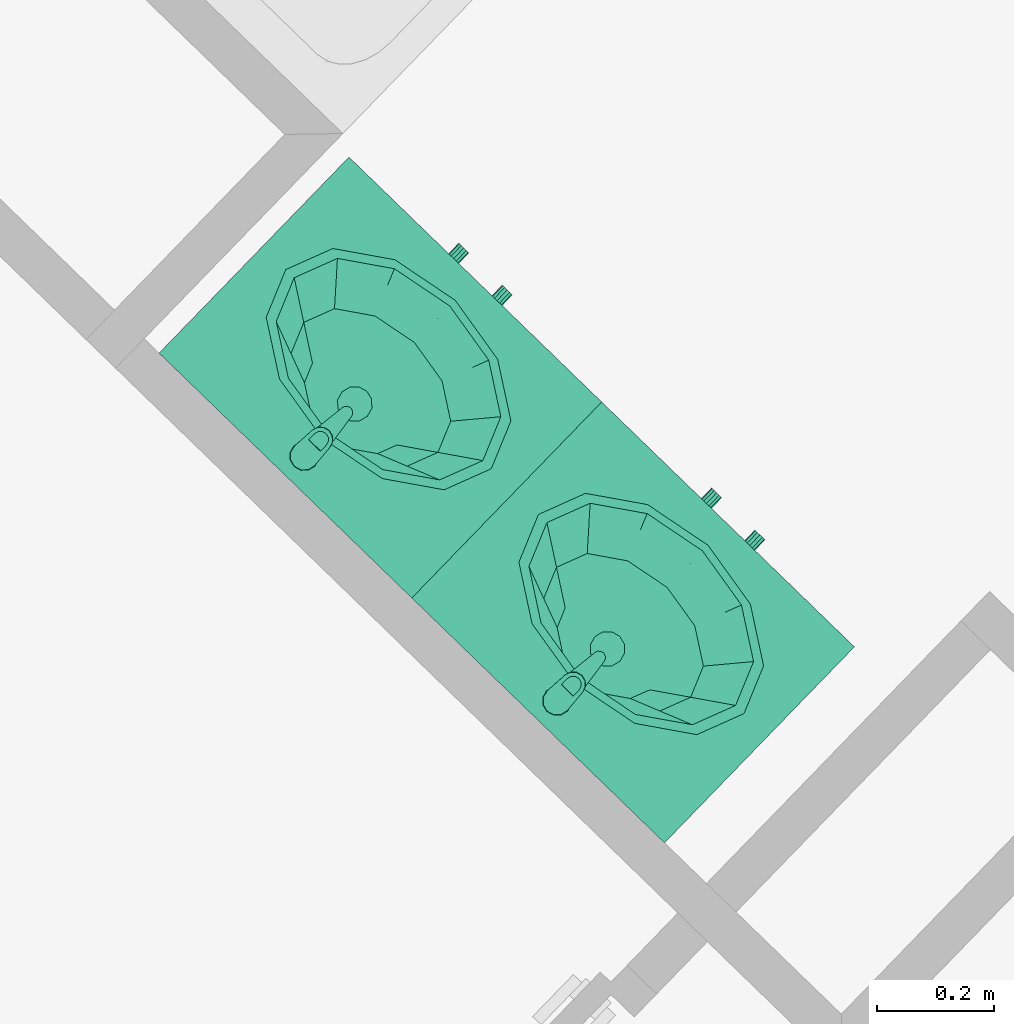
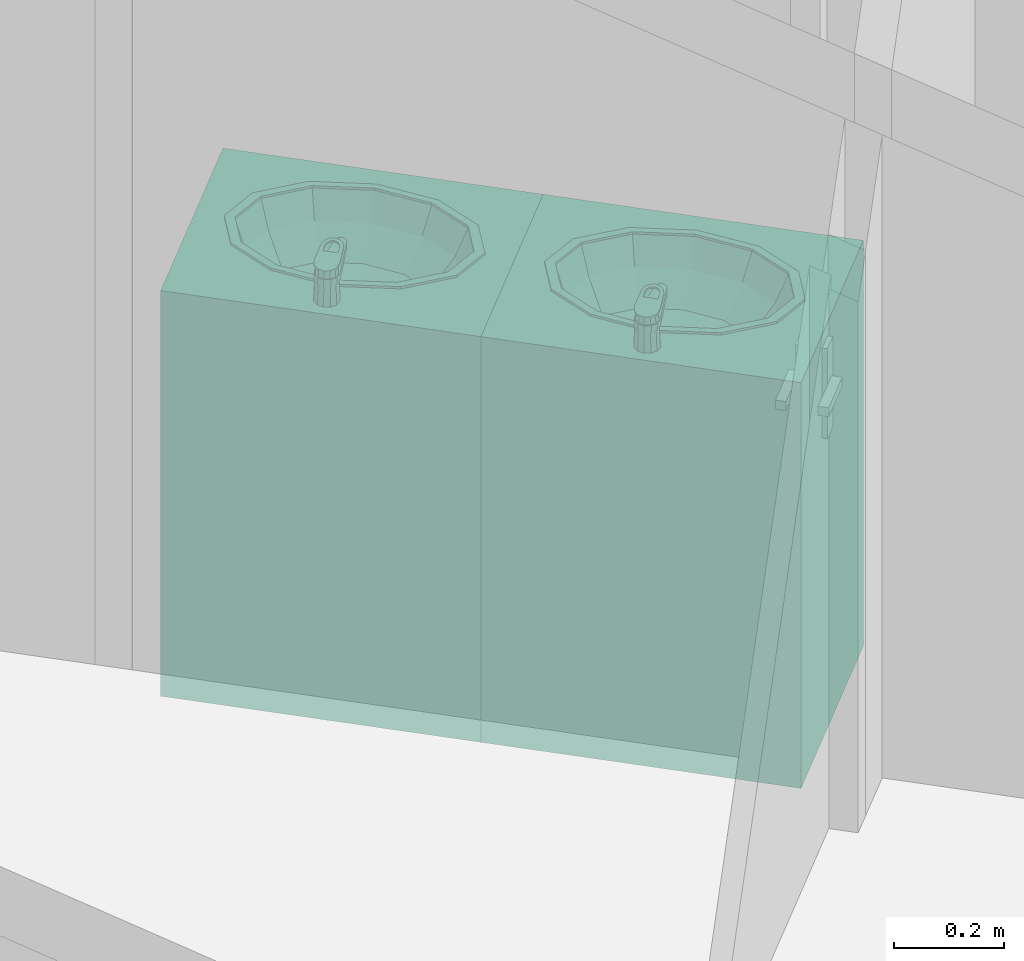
# One storey, part 89 of 121: 2 distribution elements.
"""IFC2X3 building model written with IfcOpenShell, lengths in metres."""

from ifc_helpers import new_model, entity, si_unit, converted_unit, derived_unit, money_unit, direction, frame, origin_with_axes, place, context, subcontext, project, spatial, open_shell, faceted_brep, surface_model, source, transform, mapped, type_object, element, save


model = new_model("IFC2X3")

# Units and contexts
model_context = context("Model", 3, precision=1e-05, world=origin_with_axes(), true_north=direction((0.0, 1.0)))
body_context = subcontext(model_context, "Body", "Model", "MODEL_VIEW")
ifc_project = project(units=[si_unit("LENGTHUNIT", "METRE"), si_unit("AREAUNIT", "SQUARE_METRE"), si_unit("VOLUMEUNIT", "CUBIC_METRE"), converted_unit("PLANEANGLEUNIT", "DEGREE", entity("IfcPlaneAngleMeasure", 0.0174532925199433), si_unit("PLANEANGLEUNIT", "RADIAN"), dimensions=[0, 0, 0, 0, 0, 0, 0]), money_unit("CHF"), converted_unit("TIMEUNIT", "Year", entity("IfcTimeMeasure", 31557600.0), si_unit("TIMEUNIT", "SECOND"), dimensions=[0, 0, 1, 0, 0, 0, 0]), si_unit("MASSUNIT", "GRAM", prefix="KILO"), si_unit("THERMODYNAMICTEMPERATUREUNIT", "DEGREE_CELSIUS"), si_unit("LUMINOUSINTENSITYUNIT", "LUMEN"), si_unit("ENERGYUNIT", "JOULE", prefix="MEGA"), derived_unit("THERMALCONDUCTANCEUNIT", [(si_unit("POWERUNIT", "WATT"), 1), (si_unit("LENGTHUNIT", "METRE"), -1), (si_unit("THERMODYNAMICTEMPERATUREUNIT", "KELVIN"), -1)]), derived_unit("SPECIFICHEATCAPACITYUNIT", [(si_unit("ENERGYUNIT", "JOULE"), 1), (si_unit("MASSUNIT", "GRAM", prefix="KILO"), -1), (si_unit("THERMODYNAMICTEMPERATUREUNIT", "KELVIN"), -1)]), derived_unit("MASSDENSITYUNIT", [(si_unit("MASSUNIT", "GRAM", prefix="KILO"), 1), (si_unit("VOLUMEUNIT", "CUBIC_METRE"), -1)])], contexts=[model_context])

# Site, building, storey
site_placement = place(None, origin_with_axes())
site = spatial("IfcSite", under=ifc_project, at=site_placement, Name="Site", CompositionType="ELEMENT")
building_placement = place(site_placement, origin_with_axes())
building = spatial("IfcBuilding", under=site, at=building_placement, Name="Bâtiment", CompositionType="ELEMENT")
storey_placement = place(building_placement, frame((0.0, 0.0, 2.75), z_axis=(0.0, 0.0, 1.0), x_axis=(1.0, 0.0, 0.0)))
storey = spatial("IfcBuildingStorey", under=building, at=storey_placement, Name="Etage 1", CompositionType="ELEMENT", Elevation=2.75)

# Distribution elements
distribution_element_type = type_object("IfcDistributionElementType", Name="Lavabo sur meuble 27")
shared_shape = source(origin_with_axes(), body_context, "Body", "SurfaceModel", [
    faceted_brep([(0.0, 0.0, 0.0), (0.6, 0.0, 0.0), (0.6, 0.0, 0.1), (0.0, 0.0, 0.1), (0.0, 0.4653441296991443, 0.0), (0.6, 0.4653441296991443, 0.0), (0.6, 0.4653441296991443, 0.1), (0.0, 0.4653441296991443, 0.1)], [[[0, 1, 2, 3]], [[0, 4, 5, 1]], [[1, 5, 6, 2]], [[3, 2, 6, 7]], [[4, 0, 3, 7]], [[5, 4, 7, 6]]]),
    faceted_brep([(0.0, 0.0, 0.1), (0.02, 0.0, 0.1), (0.02, 0.0, 0.12), (0.0, 0.0, 0.12), (0.0, 0.4653441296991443, 0.1), (0.02, 0.4653441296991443, 0.1), (0.58, 0.4653441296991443, 0.1), (0.6, 0.4653441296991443, 0.1), (0.6, 0.0, 0.1), (0.58, 0.0, 0.1), (0.58, 0.0, 0.12), (0.6, 0.0, 0.12), (0.6, 0.4653441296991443, 0.12), (0.58, 0.4653441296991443, 0.12), (0.02, 0.4653441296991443, 0.12), (0.0, 0.4653441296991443, 0.12)], [[[0, 1, 2, 3]], [[0, 4, 5, 6, 7, 8, 9, 1]], [[1, 9, 10, 2]], [[3, 2, 10, 11, 12, 13, 14, 15]], [[4, 0, 3, 15]], [[5, 4, 15, 14]], [[6, 5, 14, 13]], [[7, 6, 13, 12]], [[8, 7, 12, 11]], [[9, 8, 11, 10]]]),
    faceted_brep([(0.0, 0.0, 0.12), (0.02, 0.0, 0.12), (0.02, 0.0, 0.85), (0.0, 0.0, 0.85), (0.0, 0.4653441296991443, 0.12), (0.6, 0.4653441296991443, 0.12), (0.6, 0.0, 0.12), (0.58, 0.0, 0.12), (0.58, 0.4453441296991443, 0.12), (0.02, 0.4453441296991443, 0.12), (0.02, 0.4453441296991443, 0.85), (0.58, 0.4453441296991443, 0.85), (0.58, 0.0, 0.85), (0.6, 0.0, 0.85), (0.6, 0.4653441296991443, 0.85), (0.0, 0.4653441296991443, 0.85)], [[[0, 1, 2, 3]], [[0, 4, 5, 6, 7, 8, 9, 1]], [[1, 9, 10, 2]], [[3, 2, 10, 11, 12, 13, 14, 15]], [[4, 0, 3, 15]], [[5, 4, 15, 14]], [[6, 5, 14, 13]], [[7, 6, 13, 12]], [[8, 7, 12, 11]], [[9, 8, 11, 10]]]),
    faceted_brep([(0.58, 0.0, 0.3233333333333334), (0.58, 0.4453441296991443, 0.3233333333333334), (0.58, 0.4453441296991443, 0.3433333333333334), (0.58, 0.0, 0.3433333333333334), (0.02, 0.0, 0.3233333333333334), (0.02, 0.4453441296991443, 0.3233333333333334), (0.02, 0.4453441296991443, 0.3433333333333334), (0.02, 0.0, 0.3433333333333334)], [[[0, 1, 2, 3]], [[0, 4, 5, 1]], [[1, 5, 6, 2]], [[3, 2, 6, 7]], [[4, 0, 3, 7]], [[5, 4, 7, 6]]]),
    faceted_brep([(0.58, 0.0, 0.5666666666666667), (0.58, 0.4453441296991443, 0.5666666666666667), (0.58, 0.4453441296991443, 0.5866666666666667), (0.58, 0.0, 0.5866666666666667), (0.02, 0.0, 0.5666666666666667), (0.02, 0.4453441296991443, 0.5666666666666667), (0.02, 0.4453441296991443, 0.5866666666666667), (0.02, 0.0, 0.5866666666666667)], [[[0, 1, 2, 3]], [[0, 4, 5, 1]], [[1, 5, 6, 2]], [[3, 2, 6, 7]], [[4, 0, 3, 7]], [[5, 4, 7, 6]]]),
    faceted_brep([(0.0, 0.4653441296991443, 0.85), (0.6, 0.4653441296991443, 0.85), (0.6, 0.0, 0.85), (0.0, 0.0, 0.85), (0.4124999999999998, 0.08276825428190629, 0.85), (0.4948557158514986, 0.137672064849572, 0.85), (0.525, 0.2126720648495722, 0.85), (0.4948557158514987, 0.2876720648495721, 0.85), (0.4125, 0.3425758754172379, 0.85), (0.3, 0.3626720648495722, 0.85), (0.1875000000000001, 0.342575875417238, 0.85), (0.1051442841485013, 0.2876720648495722, 0.85), (0.07499999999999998, 0.2126720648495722, 0.85), (0.1051442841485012, 0.1376720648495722, 0.85), (0.1874999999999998, 0.08276825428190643, 0.85), (0.3, 0.06267206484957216, 0.85), (0.0, 0.4653441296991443, 0.9), (0.6, 0.4653441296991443, 0.9), (0.6, 0.0, 0.9), (0.0, 0.0, 0.9), (0.4124999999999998, 0.08276825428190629, 0.9), (0.4948557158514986, 0.137672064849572, 0.9), (0.525, 0.2126720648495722, 0.9), (0.4948557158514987, 0.2876720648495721, 0.9), (0.4125, 0.3425758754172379, 0.9), (0.3, 0.3626720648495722, 0.9), (0.1875000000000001, 0.342575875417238, 0.9), (0.1051442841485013, 0.2876720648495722, 0.9), (0.07499999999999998, 0.2126720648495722, 0.9), (0.1051442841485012, 0.1376720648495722, 0.9), (0.1874999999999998, 0.08276825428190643, 0.9), (0.3, 0.06267206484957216, 0.9)], [[[0, 1, 2, 3], [4, 5, 6, 7, 8, 9, 10, 11, 12, 13, 14, 15]], [[0, 16, 17, 1]], [[1, 17, 18, 2]], [[2, 18, 19, 3]], [[3, 19, 16, 0]], [[20, 21, 5, 4]], [[21, 22, 6, 5]], [[22, 23, 7, 6]], [[23, 24, 8, 7]], [[24, 25, 9, 8]], [[25, 26, 10, 9]], [[26, 27, 11, 10]], [[27, 28, 12, 11]], [[28, 29, 13, 12]], [[29, 30, 14, 13]], [[30, 31, 15, 14]], [[31, 20, 4, 15]], [[18, 17, 16, 19], [24, 23, 22, 21, 20, 31, 30, 29, 28, 27, 26, 25]]]),
    faceted_brep([(0.544, 0.2126720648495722, 0.905), (0.544, 0.2126720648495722, 0.9), (0.511310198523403, 0.2943684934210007, 0.9), (0.511310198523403, 0.2943684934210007, 0.905), (0.5113101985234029, 0.1309756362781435, 0.905), (0.5113101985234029, 0.1309756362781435, 0.9), (0.4219999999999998, 0.07116969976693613, 0.9), (0.3, 0.04927920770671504, 0.9), (0.1779999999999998, 0.07116969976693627, 0.9), (0.08868980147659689, 0.1309756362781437, 0.9), (0.05599999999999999, 0.2126720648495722, 0.9), (0.088689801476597, 0.2943684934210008, 0.9), (0.178, 0.3541744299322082, 0.9), (0.3, 0.3760649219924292, 0.9), (0.422, 0.3541744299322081, 0.9), (0.524, 0.2126720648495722, 0.9), (0.4939896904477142, 0.2876720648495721, 0.9), (0.412, 0.3425758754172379, 0.9), (0.3, 0.3626720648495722, 0.9), (0.1880000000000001, 0.342575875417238, 0.9), (0.1060103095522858, 0.2876720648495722, 0.9), (0.07599999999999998, 0.2126720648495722, 0.9), (0.1060103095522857, 0.1376720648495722, 0.9), (0.1879999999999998, 0.08276825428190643, 0.9), (0.3, 0.06267206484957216, 0.9), (0.4119999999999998, 0.08276825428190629, 0.9), (0.4939896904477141, 0.137672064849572, 0.9), (0.422, 0.3541744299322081, 0.905), (0.3, 0.3760649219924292, 0.905), (0.178, 0.3541744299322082, 0.905), (0.088689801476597, 0.2943684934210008, 0.905), (0.05599999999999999, 0.2126720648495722, 0.905), (0.08868980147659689, 0.1309756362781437, 0.905), (0.1779999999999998, 0.07116969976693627, 0.905), (0.3, 0.04927920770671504, 0.905), (0.4219999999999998, 0.07116969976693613, 0.905), (0.524, 0.2126720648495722, 0.905), (0.4939896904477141, 0.137672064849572, 0.905), (0.4119999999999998, 0.08276825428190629, 0.905), (0.3, 0.06267206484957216, 0.905), (0.1879999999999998, 0.08276825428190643, 0.905), (0.1060103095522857, 0.1376720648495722, 0.905), (0.07599999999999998, 0.2126720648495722, 0.905), (0.1060103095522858, 0.2876720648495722, 0.905), (0.1880000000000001, 0.342575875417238, 0.905), (0.3, 0.3626720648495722, 0.905), (0.412, 0.3425758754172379, 0.905), (0.4939896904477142, 0.2876720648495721, 0.905)], [[[0, 1, 2, 3]], [[4, 5, 1, 0]], [[1, 5, 6, 7, 8, 9, 10, 11, 12, 13, 14, 2], [15, 16, 17, 18, 19, 20, 21, 22, 23, 24, 25, 26]], [[3, 2, 14, 27]], [[0, 3, 27, 28, 29, 30, 31, 32, 33, 34, 35, 4], [36, 37, 38, 39, 40, 41, 42, 43, 44, 45, 46, 47]], [[35, 6, 5, 4]], [[34, 7, 6, 35]], [[33, 8, 7, 34]], [[32, 9, 8, 33]], [[31, 10, 9, 32]], [[30, 11, 10, 31]], [[29, 12, 11, 30]], [[28, 13, 12, 29]], [[27, 14, 13, 28]], [[47, 16, 15, 36]], [[46, 17, 16, 47]], [[45, 18, 17, 46]], [[44, 19, 18, 45]], [[43, 20, 19, 44]], [[42, 21, 20, 43]], [[41, 22, 21, 42]], [[40, 23, 22, 41]], [[39, 24, 23, 40]], [[38, 25, 24, 39]], [[37, 26, 25, 38]], [[36, 15, 26, 37]]]),
    surface_model("IfcShellBasedSurfaceModel", [(0.3, 0.3626720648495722, 0.9), (0.3, 0.3626720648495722, 0.848), (0.4008, 0.3445854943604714, 0.848), (0.412, 0.342575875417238, 0.9), (0.1879999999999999, 0.3425758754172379, 0.9), (0.1991999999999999, 0.3445854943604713, 0.848), (0.4745907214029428, 0.2951720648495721, 0.848), (0.4939896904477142, 0.2876720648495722, 0.9), (0.1060103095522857, 0.2876720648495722, 0.9), (0.1254092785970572, 0.2951720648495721, 0.848), (0.5016, 0.2276720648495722, 0.848), (0.524, 0.2126720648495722, 0.9), (0.07599999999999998, 0.2126720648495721, 0.9), (0.09839999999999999, 0.2276720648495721, 0.848), (0.4745907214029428, 0.1601720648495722, 0.848), (0.4939896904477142, 0.1376720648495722, 0.9), (0.1060103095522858, 0.1376720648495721, 0.9), (0.1254092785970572, 0.1601720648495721, 0.848), (0.4008, 0.1107586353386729, 0.848), (0.412, 0.08276825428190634, 0.9), (0.1879999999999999, 0.08276825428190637, 0.9), (0.1992, 0.110758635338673, 0.848), (0.3, 0.09267206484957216, 0.848), (0.3, 0.06267206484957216, 0.9)], [open_shell([[[0, 1, 2, 3]], [[4, 5, 1, 0]], [[3, 2, 6, 7]], [[8, 9, 5, 4]], [[7, 6, 10, 11]], [[12, 13, 9, 8]], [[11, 10, 14, 15]], [[16, 17, 13, 12]], [[15, 14, 18, 19]], [[20, 21, 17, 16]], [[19, 18, 22, 23]], [[23, 22, 21, 20]]])]),
    surface_model("IfcShellBasedSurfaceModel", [(0.3, 0.3626720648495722, 0.848), (0.3, 0.3626720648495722, 0.7959999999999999), (0.379632, 0.3483836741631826, 0.7959999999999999), (0.4008, 0.3445854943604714, 0.848), (0.1991999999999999, 0.3445854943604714, 0.848), (0.2203679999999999, 0.3483836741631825, 0.7959999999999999), (0.4379266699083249, 0.3093470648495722, 0.7959999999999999), (0.4745907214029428, 0.2951720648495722, 0.848), (0.1254092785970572, 0.2951720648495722, 0.848), (0.1620733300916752, 0.3093470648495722, 0.7959999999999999), (0.459264, 0.2560220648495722, 0.7959999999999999), (0.5016, 0.2276720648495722, 0.848), (0.09839999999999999, 0.2276720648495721, 0.848), (0.140736, 0.2560220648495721, 0.7959999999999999), (0.4379266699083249, 0.2026970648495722, 0.7959999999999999), (0.4745907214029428, 0.1601720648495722, 0.848), (0.1254092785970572, 0.1601720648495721, 0.848), (0.1620733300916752, 0.2026970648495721, 0.7959999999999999), (0.379632, 0.1636604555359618, 0.7959999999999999), (0.4008, 0.1107586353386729, 0.848), (0.1992, 0.110758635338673, 0.848), (0.220368, 0.1636604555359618, 0.7959999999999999), (0.3, 0.1493720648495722, 0.7959999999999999), (0.3, 0.09267206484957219, 0.848)], [open_shell([[[0, 1, 2, 3]], [[4, 5, 1, 0]], [[3, 2, 6, 7]], [[8, 9, 5, 4]], [[7, 6, 10, 11]], [[12, 13, 9, 8]], [[11, 10, 14, 15]], [[16, 17, 13, 12]], [[15, 14, 18, 19]], [[20, 21, 17, 16]], [[19, 18, 22, 23]], [[23, 22, 21, 20]]])]),
    surface_model("IfcShellBasedSurfaceModel", [(0.3, 0.3626720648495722, 0.7959999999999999), (0.3, 0.3626720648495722, 0.7699999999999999), (0.35016816, 0.3536703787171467, 0.7699999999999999), (0.379632, 0.3483836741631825, 0.7959999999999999), (0.2203679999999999, 0.3483836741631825, 0.7959999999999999), (0.2498318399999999, 0.3536703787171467, 0.7699999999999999), (0.3868938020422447, 0.3290773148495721, 0.7699999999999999), (0.4379266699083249, 0.3093470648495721, 0.7959999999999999), (0.1620733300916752, 0.3093470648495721, 0.7959999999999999), (0.2131061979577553, 0.3290773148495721, 0.7699999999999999), (0.40033632, 0.2954825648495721, 0.7699999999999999), (0.459264, 0.2560220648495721, 0.7959999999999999), (0.140736, 0.2560220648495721, 0.7959999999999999), (0.19966368, 0.2954825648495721, 0.7699999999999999), (0.3868938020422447, 0.2618878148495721, 0.7699999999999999), (0.4379266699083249, 0.2026970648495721, 0.7959999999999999), (0.1620733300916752, 0.2026970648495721, 0.7959999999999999), (0.2131061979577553, 0.2618878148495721, 0.7699999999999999), (0.35016816, 0.2372947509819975, 0.7699999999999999), (0.379632, 0.1636604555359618, 0.7959999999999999), (0.220368, 0.1636604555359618, 0.7959999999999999), (0.24983184, 0.2372947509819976, 0.7699999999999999), (0.3, 0.2282930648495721, 0.7699999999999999), (0.3, 0.1493720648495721, 0.7959999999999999)], [open_shell([[[0, 1, 2, 3]], [[4, 5, 1, 0]], [[3, 2, 6, 7]], [[8, 9, 5, 4]], [[7, 6, 10, 11]], [[12, 13, 9, 8]], [[11, 10, 14, 15]], [[16, 17, 13, 12]], [[15, 14, 18, 19]], [[20, 21, 17, 16]], [[19, 18, 22, 23]], [[23, 22, 21, 20]]])]),
    surface_model("IfcShellBasedSurfaceModel", [(0.3, 0.3626720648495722, 0.7699999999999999), (0.315, 0.3214633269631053, 0.7629999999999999), (0.35016816, 0.3536703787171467, 0.7699999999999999), (0.3, 0.3254825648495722, 0.7629999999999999), (0.3259807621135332, 0.3104825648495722, 0.7629999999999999), (0.2498318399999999, 0.3536703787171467, 0.7699999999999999), (0.3868938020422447, 0.3290773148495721, 0.7699999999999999), (0.285, 0.3214633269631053, 0.7629999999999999), (0.33, 0.2954825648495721, 0.7629999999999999), (0.2131061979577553, 0.3290773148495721, 0.7699999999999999), (0.40033632, 0.2954825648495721, 0.7699999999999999), (0.2740192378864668, 0.3104825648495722, 0.7629999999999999), (0.3259807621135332, 0.2804825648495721, 0.7629999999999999), (0.19966368, 0.2954825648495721, 0.7699999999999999), (0.3868938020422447, 0.2618878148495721, 0.7699999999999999), (0.27, 0.2954825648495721, 0.7629999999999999), (0.315, 0.269501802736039, 0.7629999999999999), (0.2131061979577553, 0.2618878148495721, 0.7699999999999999), (0.35016816, 0.2372947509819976, 0.7699999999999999), (0.2740192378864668, 0.2804825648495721, 0.7629999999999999), (0.3, 0.2654825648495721, 0.7629999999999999), (0.24983184, 0.2372947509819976, 0.7699999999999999), (0.3, 0.2282930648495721, 0.7699999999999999), (0.285, 0.269501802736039, 0.7629999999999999)], [open_shell([[[0, 1, 2]], [[0, 3, 1]], [[2, 1, 4]], [[5, 3, 0]], [[2, 4, 6]], [[5, 7, 3]], [[6, 4, 8]], [[9, 7, 5]], [[6, 8, 10]], [[9, 11, 7]], [[10, 8, 12]], [[13, 11, 9]], [[10, 12, 14]], [[13, 15, 11]], [[14, 12, 16]], [[17, 15, 13]], [[14, 16, 18]], [[17, 19, 15]], [[18, 16, 20]], [[21, 19, 17]], [[18, 20, 22]], [[21, 23, 19]], [[22, 20, 23]], [[22, 23, 21]]])]),
    surface_model("IfcShellBasedSurfaceModel", [(0.33, 0.2954825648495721, 0.763), (0.33, 0.2954825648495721, 0.758), (0.3259807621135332, 0.3104825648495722, 0.758), (0.3259807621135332, 0.3104825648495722, 0.763), (0.3259807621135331, 0.2804825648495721, 0.763), (0.3259807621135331, 0.2804825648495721, 0.758), (0.3149999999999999, 0.269501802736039, 0.758), (0.3, 0.2654825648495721, 0.758), (0.285, 0.269501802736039, 0.758), (0.2740192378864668, 0.2804825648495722, 0.758), (0.27, 0.2954825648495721, 0.758), (0.2740192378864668, 0.3104825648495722, 0.758), (0.285, 0.3214633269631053, 0.758), (0.3, 0.3254825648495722, 0.758), (0.315, 0.3214633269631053, 0.758), (0.315, 0.3214633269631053, 0.763), (0.3149999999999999, 0.269501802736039, 0.763), (0.3, 0.2654825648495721, 0.763), (0.285, 0.269501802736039, 0.763), (0.2740192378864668, 0.2804825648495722, 0.763), (0.27, 0.2954825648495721, 0.763), (0.2740192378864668, 0.3104825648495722, 0.763), (0.285, 0.3214633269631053, 0.763), (0.3, 0.3254825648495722, 0.763)], [open_shell([[[0, 1, 2, 3]], [[4, 5, 1, 0]], [[1, 5, 6, 7, 8, 9, 10, 11, 12, 13, 14, 2]], [[3, 2, 14, 15]], [[16, 6, 5, 4]], [[17, 7, 6, 16]], [[18, 8, 7, 17]], [[19, 9, 8, 18]], [[20, 10, 9, 19]], [[21, 11, 10, 20]], [[22, 12, 11, 21]], [[23, 13, 12, 22]], [[15, 14, 13, 23]]])]),
    faceted_brep([(0.3125, 0.4406587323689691, 0.9), (0.3, 0.4440080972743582, 0.9), (0.3, 0.4402100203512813, 0.9759615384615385), (0.310587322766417, 0.4373458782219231, 0.976507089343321), (0.3216506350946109, 0.4315080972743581, 0.9), (0.325, 0.4190080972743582, 0.9), (0.3216506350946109, 0.4065080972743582, 0.9), (0.3125, 0.3973574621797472, 0.9), (0.3, 0.3940080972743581, 0.9), (0.2875, 0.3973574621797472, 0.9), (0.278349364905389, 0.4065080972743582, 0.9), (0.275, 0.4190080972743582, 0.9), (0.278349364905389, 0.4315080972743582, 0.9), (0.2875, 0.4406587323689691, 0.9), (0.289412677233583, 0.4373458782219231, 0.976507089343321), (0.2817264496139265, 0.4295583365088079, 0.9779904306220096), (0.279, 0.4190080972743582, 0.98), (0.2818996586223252, 0.4085578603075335, 0.9819905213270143), (0.2895858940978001, 0.400970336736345, 0.9834357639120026), (0.3, 0.3982062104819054, 0.9839622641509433), (0.3104141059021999, 0.400970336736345, 0.9834357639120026), (0.3181003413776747, 0.4085578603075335, 0.9819905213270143), (0.321, 0.4190080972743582, 0.98), (0.3182735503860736, 0.4295583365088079, 0.9779904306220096)], [[[0, 1, 2, 3]], [[0, 4, 5, 6, 7, 8, 9, 10, 11, 12, 13, 1]], [[1, 13, 14, 2]], [[3, 2, 14, 15, 16, 17, 18, 19, 20, 21, 22, 23]], [[4, 0, 3, 23]], [[5, 4, 23, 22]], [[6, 5, 22, 21]], [[7, 6, 21, 20]], [[8, 7, 20, 19]], [[9, 8, 19, 18]], [[10, 9, 18, 17]], [[11, 10, 17, 16]], [[12, 11, 16, 15]], [[13, 12, 15, 14]]]),
    faceted_brep([(0.309, 0.3160080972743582, 0.935), (0.3077942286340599, 0.3205080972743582, 0.935), (0.3077942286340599, 0.3205080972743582, 0.9450000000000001), (0.309, 0.3160080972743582, 0.9450000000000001), (0.3077942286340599, 0.3115080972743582, 0.935), (0.3045, 0.3082138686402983, 0.935), (0.3, 0.3070080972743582, 0.935), (0.2955, 0.3082138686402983, 0.935), (0.2922057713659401, 0.3115080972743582, 0.935), (0.291, 0.3160080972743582, 0.935), (0.2922057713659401, 0.3205080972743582, 0.935), (0.2955, 0.3238023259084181, 0.935), (0.3, 0.3250080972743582, 0.935), (0.3045, 0.3238023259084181, 0.935), (0.3045, 0.3238023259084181, 0.9450000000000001), (0.3, 0.3250080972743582, 0.9450000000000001), (0.2955, 0.3238023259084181, 0.9450000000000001), (0.2922057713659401, 0.3205080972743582, 0.9450000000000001), (0.291, 0.3160080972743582, 0.9450000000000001), (0.2922057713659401, 0.3115080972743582, 0.9450000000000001), (0.2955, 0.3082138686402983, 0.9450000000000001), (0.3, 0.3070080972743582, 0.9450000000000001), (0.3045, 0.3082138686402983, 0.9450000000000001), (0.3077942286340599, 0.3115080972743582, 0.9450000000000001)], [[[0, 1, 2, 3]], [[0, 4, 5, 6, 7, 8, 9, 10, 11, 12, 13, 1]], [[1, 13, 14, 2]], [[3, 2, 14, 15, 16, 17, 18, 19, 20, 21, 22, 23]], [[4, 0, 3, 23]], [[5, 4, 23, 22]], [[6, 5, 22, 21]], [[7, 6, 21, 20]], [[8, 7, 20, 19]], [[9, 8, 19, 18]], [[10, 9, 18, 17]], [[11, 10, 17, 16]], [[12, 11, 16, 15]], [[13, 12, 15, 14]]]),
    faceted_brep([(0.2871282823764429, 0.439264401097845, 0.9600000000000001), (0.2782721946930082, 0.4292013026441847, 0.9600000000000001), (0.2761946, 0.4159581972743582, 0.9600000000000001), (0.2890880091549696, 0.3146197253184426, 0.9600000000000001), (0.2909711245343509, 0.3097249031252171, 0.9600000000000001), (0.2949066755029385, 0.3062583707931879, 0.9600000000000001), (0.300000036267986, 0.305008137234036, 0.9600000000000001), (0.3050933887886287, 0.3062584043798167, 0.9600000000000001), (0.309028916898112, 0.3097249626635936, 0.9600000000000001), (0.310912, 0.3146197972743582, 0.9600000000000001), (0.3238053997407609, 0.4159581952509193, 0.9600000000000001), (0.3217278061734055, 0.4292013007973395, 0.9600000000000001), (0.3128717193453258, 0.4392644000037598, 0.9600000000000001), (0.300000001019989, 0.44300807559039, 0.9600000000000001), (0.311, 0.4380606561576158, 0.9600000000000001), (0.3190525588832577, 0.4300080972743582, 0.9600000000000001), (0.322, 0.4190080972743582, 0.9600000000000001), (0.3190525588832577, 0.4080080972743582, 0.9600000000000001), (0.3109999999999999, 0.3999555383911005, 0.9600000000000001), (0.3, 0.3970080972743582, 0.9600000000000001), (0.289, 0.3999555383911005, 0.9600000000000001), (0.2809474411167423, 0.4080080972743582, 0.9600000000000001), (0.278, 0.4190080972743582, 0.9600000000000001), (0.2809474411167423, 0.4300080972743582, 0.9600000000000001), (0.289, 0.4380606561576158, 0.9600000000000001), (0.3, 0.4410080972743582, 0.9600000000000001), (0.2782721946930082, 0.4292013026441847, 0.9450000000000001), (0.2871282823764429, 0.439264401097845, 0.9450000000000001), (0.2761946, 0.4159581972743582, 0.9450000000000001), (0.2890880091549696, 0.3146197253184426, 0.9450000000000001), (0.2909711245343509, 0.3097249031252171, 0.9450000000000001), (0.2949066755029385, 0.3062583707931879, 0.9450000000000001), (0.300000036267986, 0.305008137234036, 0.9450000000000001), (0.3050933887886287, 0.3062584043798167, 0.9450000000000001), (0.309028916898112, 0.3097249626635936, 0.9450000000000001), (0.310912, 0.3146197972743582, 0.9450000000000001), (0.3238053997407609, 0.4159581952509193, 0.9450000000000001), (0.3217278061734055, 0.4292013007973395, 0.9450000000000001), (0.3128717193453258, 0.4392644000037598, 0.9450000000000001), (0.300000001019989, 0.44300807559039, 0.9450000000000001), (0.311375, 0.4387101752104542, 0.9450000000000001), (0.319702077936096, 0.4303830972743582, 0.9450000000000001), (0.32275, 0.4190080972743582, 0.9450000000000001), (0.319702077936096, 0.4076330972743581, 0.9450000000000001), (0.311375, 0.3993060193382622, 0.9450000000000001), (0.3, 0.3962580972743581, 0.9450000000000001), (0.288625, 0.3993060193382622, 0.9450000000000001), (0.280297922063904, 0.4076330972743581, 0.9450000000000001), (0.2772499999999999, 0.4190080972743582, 0.9450000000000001), (0.280297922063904, 0.4303830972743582, 0.9450000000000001), (0.288625, 0.4387101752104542, 0.9450000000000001), (0.3, 0.4417580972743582, 0.9450000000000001)], [[[0, 1, 2, 3, 4, 5, 6, 7, 8, 9, 10, 11, 12, 13], [14, 15, 16, 17, 18, 19, 20, 21, 22, 23, 24, 25]], [[26, 1, 0, 27]], [[28, 2, 1, 26]], [[29, 3, 2, 28]], [[30, 4, 3, 29]], [[31, 5, 4, 30]], [[32, 6, 5, 31]], [[33, 7, 6, 32]], [[34, 8, 7, 33]], [[35, 9, 8, 34]], [[36, 10, 9, 35]], [[37, 11, 10, 36]], [[38, 12, 11, 37]], [[39, 13, 12, 38]], [[27, 0, 13, 39]], [[40, 41, 15, 14]], [[41, 42, 16, 15]], [[42, 43, 17, 16]], [[43, 44, 18, 17]], [[44, 45, 19, 18]], [[20, 19, 45, 46]], [[21, 20, 46, 47]], [[22, 21, 47, 48]], [[23, 22, 48, 49]], [[24, 23, 49, 50]], [[50, 51, 25, 24]], [[51, 40, 14, 25]], [[32, 31, 30, 29, 28, 26, 27, 39, 38, 37, 36, 35, 34, 33], [44, 43, 42, 41, 40, 51, 50, 49, 48, 47, 46, 45]]]),
    faceted_brep([(0.323893, 0.4173155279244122, 0.9803223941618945), (0.3212964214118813, 0.4297828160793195, 0.9779476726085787), (0.3212964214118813, 0.4305312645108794, 0.9818770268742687), (0.323893, 0.4180639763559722, 0.9842517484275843), (0.3209459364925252, 0.377171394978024, 0.9879688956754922), (0.317663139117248, 0.3674937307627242, 0.9898122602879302), (0.3100614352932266, 0.3605443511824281, 0.9911359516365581), (0.2999995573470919, 0.3580224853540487, 0.9916163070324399), (0.289937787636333, 0.3605447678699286, 0.9911358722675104), (0.2823363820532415, 0.3674944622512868, 0.9898121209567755), (0.279054, 0.3771722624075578, 0.9879687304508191), (0.2761069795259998, 0.4173158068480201, 0.9803223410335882), (0.2787037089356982, 0.4297830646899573, 0.9779476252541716), (0.2875283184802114, 0.4390992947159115, 0.976173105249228), (0.3000001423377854, 0.4425400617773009, 0.9755177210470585), (0.3124719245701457, 0.4390991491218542, 0.9761731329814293), (0.314, 0.3934672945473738, 0.9848649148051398), (0.286, 0.3934672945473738, 0.9848649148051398), (0.286, 0.37865166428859, 0.9876869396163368), (0.2878756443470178, 0.3717752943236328, 0.9889967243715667), (0.293, 0.3667414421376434, 0.9899555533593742), (0.3, 0.3648989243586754, 0.9903065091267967), (0.307, 0.3667414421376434, 0.9899555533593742), (0.3121243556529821, 0.3717752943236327, 0.9889967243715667), (0.314, 0.37865166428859, 0.9876869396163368), (0.3124719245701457, 0.4398475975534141, 0.9801024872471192), (0.3000001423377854, 0.4432885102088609, 0.9794470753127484), (0.2875283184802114, 0.4398477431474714, 0.9801024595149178), (0.2787037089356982, 0.4305315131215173, 0.9818769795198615), (0.2761069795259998, 0.4180642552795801, 0.9842516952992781), (0.279054, 0.3779207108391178, 0.991898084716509), (0.2823363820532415, 0.3682429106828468, 0.9937414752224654), (0.289937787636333, 0.3612932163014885, 0.9950652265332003), (0.2999995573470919, 0.3587709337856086, 0.9955456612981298), (0.3100614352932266, 0.3612927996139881, 0.995065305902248), (0.317663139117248, 0.3682421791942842, 0.9937416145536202), (0.3209459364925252, 0.377919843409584, 0.9918982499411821), (0.314, 0.3942157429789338, 0.9887942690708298), (0.314, 0.3794001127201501, 0.9916162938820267), (0.3121243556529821, 0.3725237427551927, 0.9929260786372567), (0.307, 0.3674898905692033, 0.9938849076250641), (0.3, 0.3656473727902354, 0.9942358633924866), (0.293, 0.3674898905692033, 0.9938849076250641), (0.2878756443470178, 0.3725237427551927, 0.9929260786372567), (0.286, 0.3794001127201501, 0.9916162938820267), (0.286, 0.3942157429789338, 0.9887942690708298)], [[[0, 1, 2, 3]], [[0, 4, 5, 6, 7, 8, 9, 10, 11, 12, 13, 14, 15, 1], [16, 17, 18, 19, 20, 21, 22, 23, 24]], [[1, 15, 25, 2]], [[3, 2, 25, 26, 27, 28, 29, 30, 31, 32, 33, 34, 35, 36], [37, 38, 39, 40, 41, 42, 43, 44, 45]], [[4, 0, 3, 36]], [[5, 4, 36, 35]], [[6, 5, 35, 34]], [[7, 6, 34, 33]], [[8, 7, 33, 32]], [[9, 8, 32, 31]], [[10, 9, 31, 30]], [[11, 10, 30, 29]], [[12, 11, 29, 28]], [[13, 12, 28, 27]], [[14, 13, 27, 26]], [[15, 14, 26, 25]], [[17, 16, 37, 45]], [[18, 17, 45, 44]], [[19, 18, 44, 43]], [[20, 19, 43, 42]], [[21, 20, 42, 41]], [[22, 21, 41, 40]], [[23, 22, 40, 39]], [[24, 23, 39, 38]], [[16, 24, 38, 37]]]),
    surface_model("IfcShellBasedSurfaceModel", [(0.001500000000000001, 0.0, 0.1015), (0.001500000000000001, 0.0, 0.8485), (0.2985, 0.0, 0.8485), (0.2985, 0.0, 0.1015)], [open_shell([[[0, 1, 2, 3]]])]),
    faceted_brep([(0.2588923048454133, 0.0, 0.7855), (0.2545, 0.0, 0.7811076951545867), (0.2485, 0.0, 0.7795), (0.2425, 0.0, 0.7811076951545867), (0.2381076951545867, 0.0, 0.7855), (0.2365, 0.0, 0.7915), (0.2381076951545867, 0.0, 0.7975), (0.2425, 0.0, 0.8018923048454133), (0.2485, 0.0, 0.8035), (0.2545, 0.0, 0.8018923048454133), (0.2588923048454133, 0.0, 0.7975), (0.2605, 0.0, 0.7915), (0.2588923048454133, -0.025, 0.7855), (0.2545, -0.025, 0.7811076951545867), (0.2485, -0.025, 0.7795), (0.2425, -0.025, 0.7811076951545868), (0.2381076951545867, -0.025, 0.7855), (0.2365, -0.025, 0.7915), (0.2381076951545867, -0.025, 0.7975), (0.2425, -0.025, 0.8018923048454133), (0.2485, -0.025, 0.8035), (0.2545, -0.025, 0.8018923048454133), (0.2588923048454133, -0.025, 0.7975), (0.2605, -0.025, 0.7915)], [[[0, 1, 2, 3, 4, 5, 6, 7, 8, 9, 10, 11]], [[1, 0, 12, 13]], [[2, 1, 13, 14]], [[3, 2, 14, 15]], [[4, 3, 15, 16]], [[5, 4, 16, 17]], [[6, 5, 17, 18]], [[7, 6, 18, 19]], [[8, 7, 19, 20]], [[9, 8, 20, 21]], [[10, 9, 21, 22]], [[11, 10, 22, 23]], [[0, 11, 23, 12]], [[12, 23, 22, 21, 20, 19, 18, 17, 16, 15, 14, 13]]]),
    surface_model("IfcShellBasedSurfaceModel", [(0.5985, 0.0, 0.1015), (0.3015000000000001, 0.0, 0.1015), (0.3015000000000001, 0.0, 0.8485), (0.5985, 0.0, 0.8485)], [open_shell([[[0, 1, 2, 3]]])]),
    faceted_brep([(0.3411076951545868, 0.0, 0.7855), (0.3395, 0.0, 0.7915), (0.3411076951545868, 0.0, 0.7975), (0.3455, 0.0, 0.8018923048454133), (0.3515, 0.0, 0.8035), (0.3575, 0.0, 0.8018923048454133), (0.3618923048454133, 0.0, 0.7975), (0.3635, 0.0, 0.7915), (0.3618923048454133, 0.0, 0.7855), (0.3575, 0.0, 0.7811076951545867), (0.3515, 0.0, 0.7795), (0.3455, 0.0, 0.7811076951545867), (0.3411076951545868, -0.025, 0.7855), (0.3395, -0.025, 0.7915), (0.3411076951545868, -0.025, 0.7975), (0.3455, -0.025, 0.8018923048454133), (0.3515, -0.025, 0.8035), (0.3575, -0.025, 0.8018923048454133), (0.3618923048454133, -0.025, 0.7975), (0.3635, -0.025, 0.7915), (0.3618923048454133, -0.025, 0.7855), (0.3575, -0.025, 0.7811076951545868), (0.3515, -0.025, 0.7795), (0.3455, -0.025, 0.7811076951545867)], [[[0, 1, 2, 3, 4, 5, 6, 7, 8, 9, 10, 11]], [[0, 12, 13, 1]], [[1, 13, 14, 2]], [[2, 14, 15, 3]], [[3, 15, 16, 4]], [[4, 16, 17, 5]], [[5, 17, 18, 6]], [[6, 18, 19, 7]], [[7, 19, 20, 8]], [[8, 20, 21, 9]], [[9, 21, 22, 10]], [[10, 22, 23, 11]], [[11, 23, 12, 0]], [[12, 23, 22, 21, 20, 19, 18, 17, 16, 15, 14, 13]]]),
])
for number, where, z_axis, x_axis, name in (
    (1, (9521.492541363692, -1059.613406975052, 57.59999999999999), (0.0, 0.0, 1.0), (-0.718176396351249, 0.6958610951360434, 0.0), "Obj.-004"),
    (2, (9521.92344720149, -1060.030923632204, 57.59999999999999), (0.0, 0.0, 1.0), (-0.718176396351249, 0.6958610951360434, 0.0), "Obj.-004"),
):
    element("IfcDistributionElement", number, at=place(storey_placement, frame(where, z_axis=z_axis, x_axis=x_axis)), inside=storey, type_object=distribution_element_type, Name=name, context=body_context, shape_type="MappedRepresentation", body=[
        mapped(shared_shape, transform((0.0, 0.0, 0.0))),
    ])

save(model, "model.ifc")
